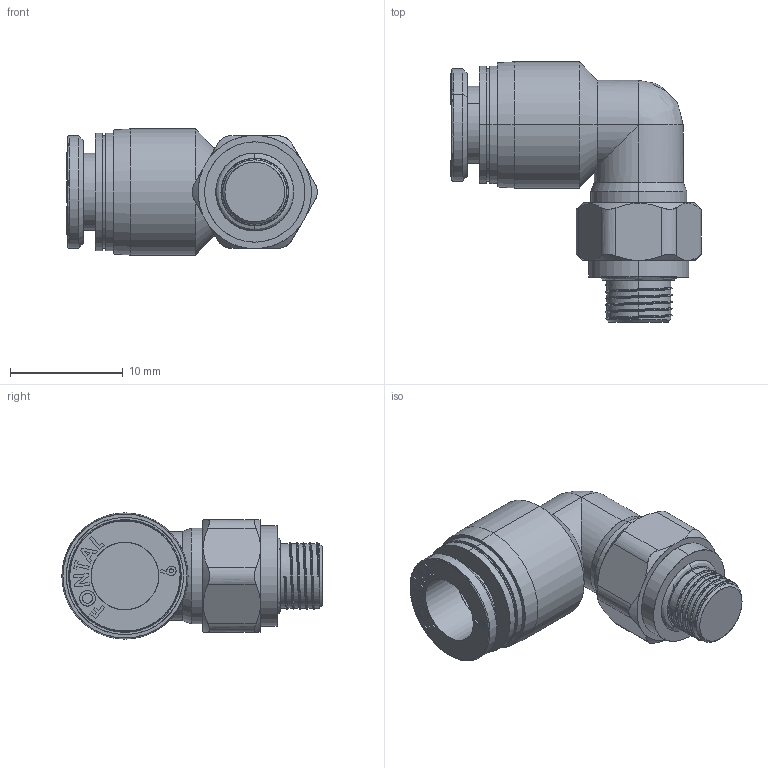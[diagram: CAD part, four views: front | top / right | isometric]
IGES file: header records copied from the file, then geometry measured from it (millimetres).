
Start section: SolidWorks IGES file using analytic representation for surfaces
Global section: file name: D:\Custom\3D繪製\ADDITIONAL\FPL\FPL6-M6.IGS,1; native system: 5HSolidWorks 2014; preprocessor: SolidWorks 2014; author: Chieh_Lu; date: 160115.050420; units: millimetre
Bounding box: 22.22 x 23.1 x 11.2 mm (x, y, z)
Surface area: 1722.3 mm2 (no closed solid volume)
Topology: 0 solids, 0 shells, 182 faces, 2316 edges, 2316 vertices
Faces by surface type: bspline 120, revolution 62
